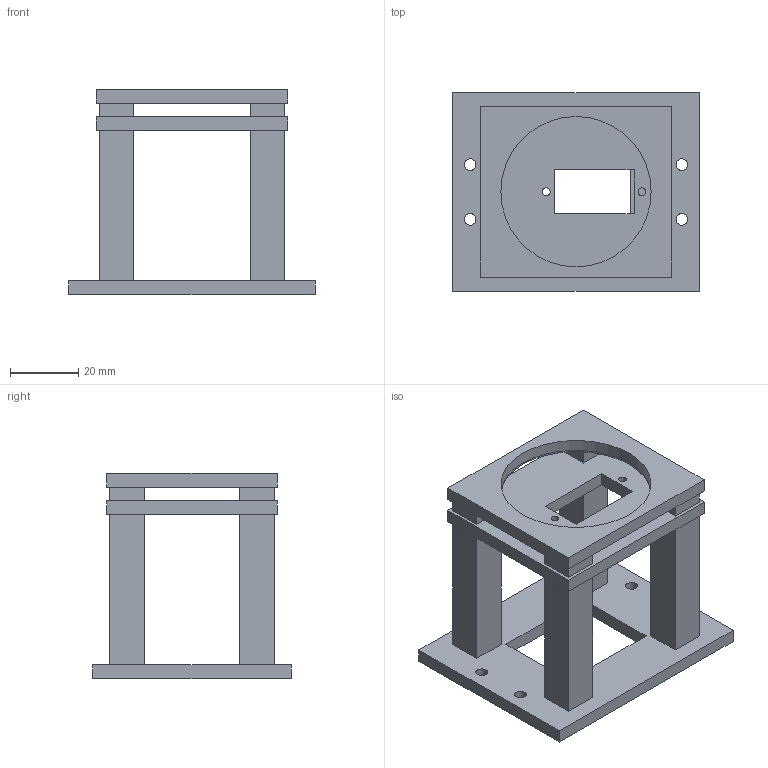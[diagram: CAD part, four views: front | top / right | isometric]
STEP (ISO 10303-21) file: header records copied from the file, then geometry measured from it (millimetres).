
FILE_DESCRIPTION(('FreeCAD Model'),'2;1');
FILE_NAME('Open CASCADE Shape Model','2026-11-07T16:11:57',('FreeCAD'),( 'FreeCAD'),'Open CASCADE STEP processor 7.8','FreeCAD','Unknown');
FILE_SCHEMA(('AUTOMOTIVE_DESIGN { 1 0 10303 214 1 1 1 1 }'));
Length unit declared in the file: millimetre
Products named in the file (1): Open CASCADE STEP translator 7.8 3
Bounding box: 72 x 58 x 60 mm (x, y, z)
Volume: 47517.3 mm3; surface area: 24509.9 mm2
Topology: 1 solids, 1 shells, 66 faces, 179 edges, 119 vertices
Faces by surface type: plane 58, cylinder 8
Full cylindrical faces by diameter (mm): 2.3 x2, 3.4 x4, 44 x2
Entity records: 2120 total; most frequent: CARTESIAN_POINT 365, ORIENTED_EDGE 358, DIRECTION 328, EDGE_CURVE 179, LINE 164, VECTOR 164, VERTEX_POINT 119, FACE_BOUND 100
